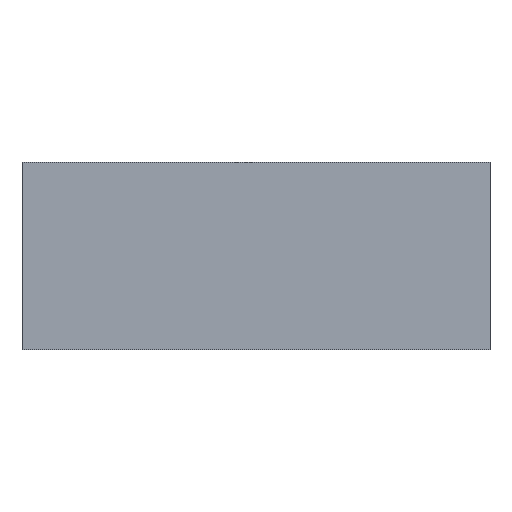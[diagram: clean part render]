
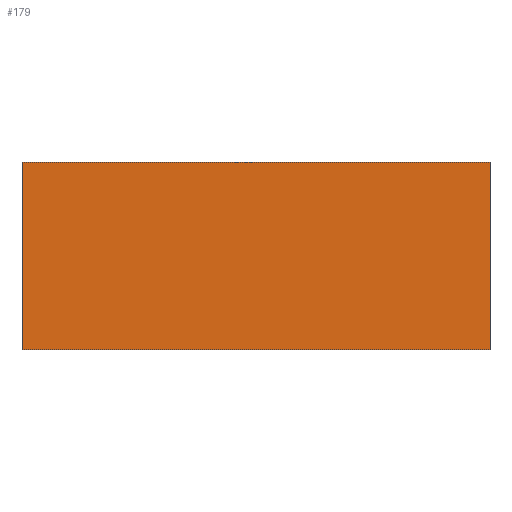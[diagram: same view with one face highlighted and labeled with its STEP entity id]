
A CAD part, top view. The second image highlights one B-rep face of the part: STEP entity #179.
In plain terms, the highlighted planar face has unit normal (0, 0, 1).
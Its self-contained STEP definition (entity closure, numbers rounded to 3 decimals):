
#171=AXIS2_PLACEMENT_3D('Plane Axis2P3D',#168,#169,#170) ;
#43=CARTESIAN_POINT('Vertex',(25.,10.,3.5)) ;
#57=CARTESIAN_POINT('Vertex',(-25.,10.,3.5)) ;
#60=CARTESIAN_POINT('Line Origine',(0.,10.,3.5)) ;
#88=CARTESIAN_POINT('Vertex',(-25.,-10.,3.5)) ;
#91=CARTESIAN_POINT('Line Origine',(-25.,0.,3.5)) ;
#119=CARTESIAN_POINT('Vertex',(25.,-10.,3.5)) ;
#122=CARTESIAN_POINT('Line Origine',(0.,-10.,3.5)) ;
#144=CARTESIAN_POINT('Line Origine',(25.,0.,3.5)) ;
#168=CARTESIAN_POINT('Axis2P3D Location',(0.,0.,3.5)) ;
#61=DIRECTION('Vector Direction',(1.,0.,0.)) ;
#92=DIRECTION('Vector Direction',(0.,1.,0.)) ;
#123=DIRECTION('Vector Direction',(-1.,0.,0.)) ;
#145=DIRECTION('Vector Direction',(0.,-1.,0.)) ;
#169=DIRECTION('Axis2P3D Direction',(0.,0.,1.)) ;
#170=DIRECTION('Axis2P3D XDirection',(1.,0.,0.)) ;
#62=VECTOR('Line Direction',#61,1.) ;
#93=VECTOR('Line Direction',#92,1.) ;
#124=VECTOR('Line Direction',#123,1.) ;
#146=VECTOR('Line Direction',#145,1.) ;
#174=ORIENTED_EDGE('',*,*,#64,.T.) ;
#175=ORIENTED_EDGE('',*,*,#95,.T.) ;
#176=ORIENTED_EDGE('',*,*,#126,.T.) ;
#177=ORIENTED_EDGE('',*,*,#148,.T.) ;
#179=ADVANCED_FACE('\X2\96F64EF651E04F554F53\X0\',(#178),#172,.T.) ;
#64=EDGE_CURVE('',#44,#58,#63,.F.) ;
#95=EDGE_CURVE('',#58,#89,#94,.F.) ;
#126=EDGE_CURVE('',#89,#120,#125,.F.) ;
#148=EDGE_CURVE('',#120,#44,#147,.F.) ;
#173=EDGE_LOOP('',(#174,#175,#176,#177)) ;
#178=FACE_OUTER_BOUND('',#173,.T.) ;
#63=LINE('Line',#60,#62) ;
#94=LINE('Line',#91,#93) ;
#125=LINE('Line',#122,#124) ;
#147=LINE('Line',#144,#146) ;
#172=PLANE('Plane',#171) ;
#44=VERTEX_POINT('',#43) ;
#58=VERTEX_POINT('',#57) ;
#89=VERTEX_POINT('',#88) ;
#120=VERTEX_POINT('',#119) ;
